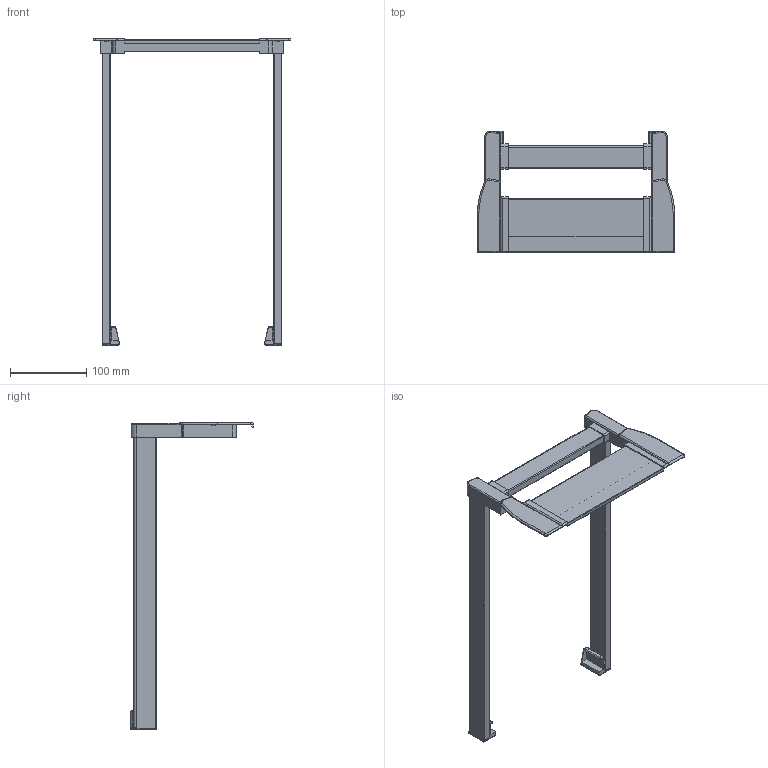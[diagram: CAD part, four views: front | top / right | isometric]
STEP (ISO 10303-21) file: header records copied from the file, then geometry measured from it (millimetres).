
FILE_DESCRIPTION (( 'STEP AP214' ), '1' );
FILE_NAME ('1_P620_NL 400_KAB 300_16er KS_.step', '2009-09-16T06:29:31', ( 'Waldinger Reinhard' ), ( 'Grass GmbH' ), 'SwSTEP 2.0', 'SolidWorks 2009', '' );
FILE_SCHEMA (( 'AUTOMOTIVE_DESIGN' ));
Length unit declared in the file: millimetre
Products named in the file (1): 1_P620_NL 400_KAB 300_16er KS_
Bounding box: 259.6 x 160.5 x 402.8 mm (x, y, z)
Volume: 574664.2 mm3; surface area: 141361.6 mm2
Topology: 1 solids, 1 shells, 218 faces, 576 edges, 364 vertices
Faces by surface type: plane 97, cylinder 89, torus 28, sphere 2, bspline 2
Entity records: 6974 total; most frequent: CARTESIAN_POINT 1341, DIRECTION 1192, ORIENTED_EDGE 1148, EDGE_CURVE 574, AXIS2_PLACEMENT_3D 431, VERTEX_POINT 364, VECTOR 330, LINE 330
